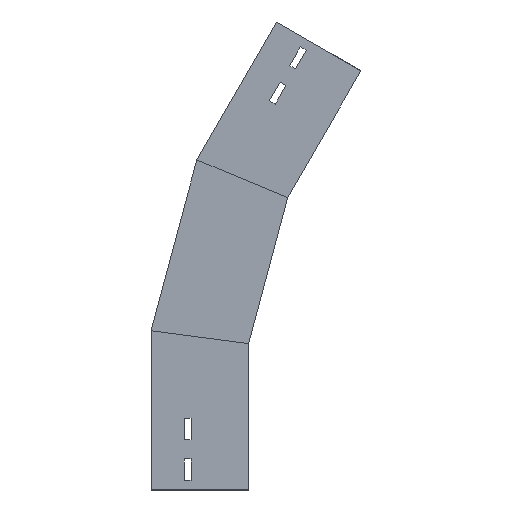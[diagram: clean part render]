
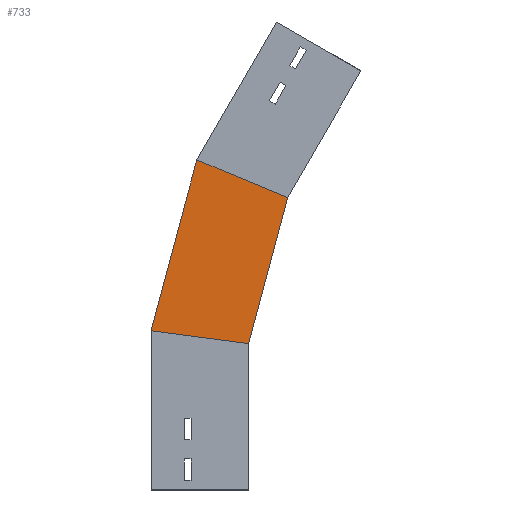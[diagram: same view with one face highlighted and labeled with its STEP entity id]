
A CAD part, left-side view. The second image highlights one B-rep face of the part: STEP entity #733.
In plain terms, the highlighted planar face has unit normal (-1, 0, 0) as drawn and (1, 0, 0) by its records, which use the part's own axes.
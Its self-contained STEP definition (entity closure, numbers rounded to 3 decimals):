
#18 = DIRECTION ( 'NONE',  ( 0., 0., -1. ) ) ;
#19 = CARTESIAN_POINT ( 'NONE',  ( 0., -60.567, 291.248 ) ) ;
#53 = CARTESIAN_POINT ( 'NONE',  ( 0., 53.068, 338.317 ) ) ;
#88 = EDGE_CURVE ( 'NONE', #757, #929, #95, .T. ) ;
#95 = LINE ( 'NONE', #353, #907 ) ;
#99 = PLANE ( 'NONE',  #241 ) ;
#180 = EDGE_CURVE ( 'NONE', #502, #330, #278, .T. ) ;
#181 = CARTESIAN_POINT ( 'NONE',  ( 0., 3.774, 135.915 ) ) ;
#182 = ORIENTED_EDGE ( 'NONE', *, *, #88, .F. ) ;
#241 = AXIS2_PLACEMENT_3D ( 'NONE', #577, #927, #18 ) ;
#278 = LINE ( 'NONE', #19, #871 ) ;
#330 = VERTEX_POINT ( 'NONE', #1233 ) ;
#341 = EDGE_CURVE ( 'NONE', #929, #330, #879, .T. ) ;
#353 = CARTESIAN_POINT ( 'NONE',  ( 0., -19.411, 147.444 ) ) ;
#359 = VECTOR ( 'NONE', #971, 1000. ) ;
#456 = CARTESIAN_POINT ( 'NONE',  ( 0., 100., 163.165 ) ) ;
#502 = VERTEX_POINT ( 'NONE', #53 ) ;
#569 = VECTOR ( 'NONE', #761, 1000. ) ;
#577 = CARTESIAN_POINT ( 'NONE',  ( 0., 3.774, 135.915 ) ) ;
#733 = ADVANCED_FACE ( 'NONE', ( #961 ), #99, .T. ) ;
#757 = VERTEX_POINT ( 'NONE', #456 ) ;
#761 = DIRECTION ( 'NONE',  ( 0., -0.259, 0.966 ) ) ;
#813 = DIRECTION ( 'NONE',  ( 0., -0.991, -0.131 ) ) ;
#871 = VECTOR ( 'NONE', #948, 1000. ) ;
#879 = LINE ( 'NONE', #181, #569 ) ;
#907 = VECTOR ( 'NONE', #813, 1000. ) ;
#927 = DIRECTION ( 'NONE',  ( 1., 0., 0. ) ) ;
#929 = VERTEX_POINT ( 'NONE', #1309 ) ;
#948 = DIRECTION ( 'NONE',  ( 0., -0.924, -0.383 ) ) ;
#949 = LINE ( 'NONE', #1173, #359 ) ;
#961 = FACE_OUTER_BOUND ( 'NONE', #1250, .T. ) ;
#971 = DIRECTION ( 'NONE',  ( 0., -0.259, 0.966 ) ) ;
#1173 = CARTESIAN_POINT ( 'NONE',  ( 0., 100.367, 161.797 ) ) ;
#1233 = CARTESIAN_POINT ( 'NONE',  ( 0., -40.117, 299.719 ) ) ;
#1237 = ORIENTED_EDGE ( 'NONE', *, *, #1477, .T. ) ;
#1250 = EDGE_LOOP ( 'NONE', ( #1237, #1379, #1442, #182 ) ) ;
#1309 = CARTESIAN_POINT ( 'NONE',  ( 0., 0., 150. ) ) ;
#1379 = ORIENTED_EDGE ( 'NONE', *, *, #180, .T. ) ;
#1442 = ORIENTED_EDGE ( 'NONE', *, *, #341, .F. ) ;
#1477 = EDGE_CURVE ( 'NONE', #757, #502, #949, .T. ) ;
